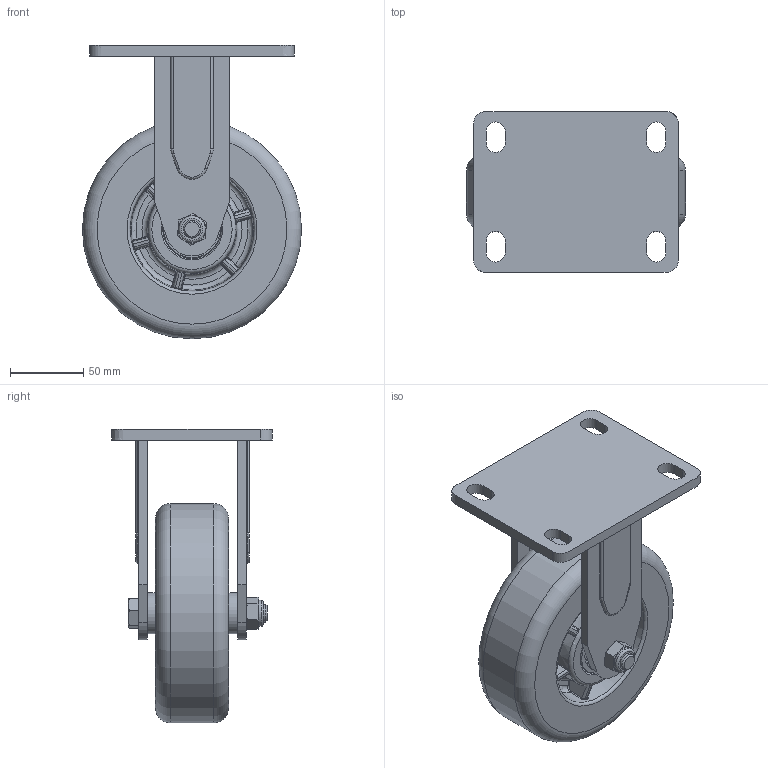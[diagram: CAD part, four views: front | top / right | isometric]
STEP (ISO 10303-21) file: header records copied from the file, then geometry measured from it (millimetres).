
FILE_DESCRIPTION(/* description */ (''),/* implementation_level */ '2;1');
FILE_NAME(/* name */ '36A09_6_F.stp',/* time_stamp */ '2022-08-29T09:00:02+08:00',/* author */ (''),/* organization */ (''),/* preprocessor_version */ 'ST-DEVELOPER v14',/* originating_system */ 'SIEMENS PLM Software NX 8.0',/* authorisation */ '');
FILE_SCHEMA (('AUTOMOTIVE_DESIGN { 1 0 10303 214 3 1 1 1 }'));
Products named in the file (1): 36A09_6_F
Bounding box: 150 x 110 x 201 mm (x, y, z)
Volume: 944579.7 mm3; surface area: 156590.8 mm2
Topology: 1 solids, 3 shells, 879 faces, 2286 edges, 1413 vertices
Faces by surface type: plane 390, cylinder 209, bspline 192, cone 49, torus 37, extrusion 2
Full cylindrical faces by diameter (mm): 12 x2, 12.3 x2, 12.4 x1, 18 x1, 19.9 x3, 20.5 x2, 24.188 x4, 28 x2, 32.812 x2, 39.85 x2, 40 x2, 150 x1
Entity records: 42983 total; most frequent: CARTESIAN_POINT 23221, ORIENTED_EDGE 4402, DIRECTION 3821, EDGE_CURVE 2201, AXIS2_PLACEMENT_3D 1622, VERTEX_POINT 1378, EDGE_LOOP 983, CIRCLE 924
